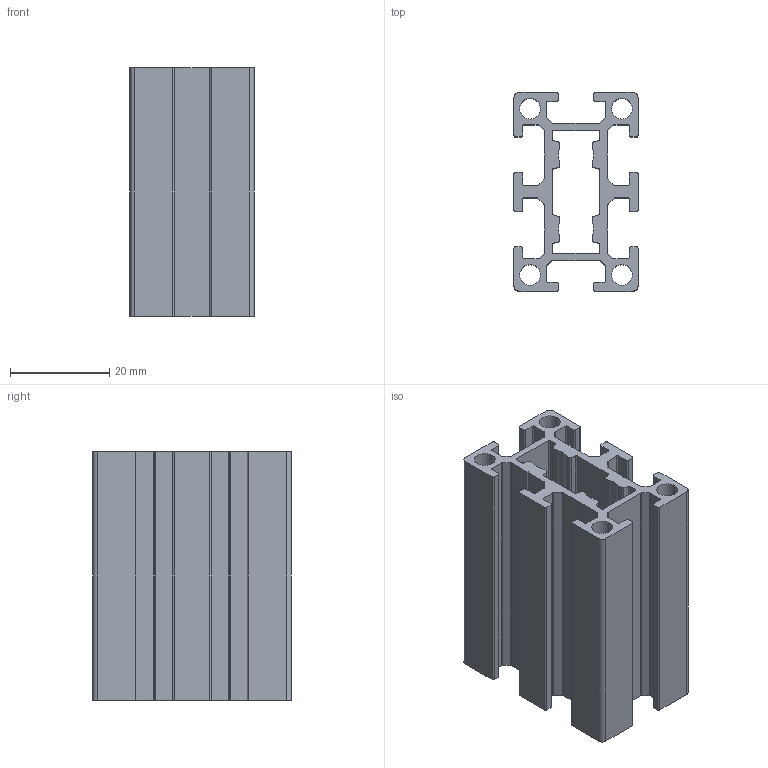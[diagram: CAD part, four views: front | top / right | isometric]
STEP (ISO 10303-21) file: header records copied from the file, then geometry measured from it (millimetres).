
FILE_DESCRIPTION(('STEP AP214'),'1');
FILE_NAME('F240-.stp','2017-07-14T08:14:21',(' '),(' '),'Spatial InterOp 3D',' ',' ');
FILE_SCHEMA(('automotive_design'));
Length unit declared in the file: millimetre
Products named in the file (1): F240-
Bounding box: 25 x 40 x 50 mm (x, y, z)
Volume: 17294.3 mm3; surface area: 19630.9 mm2
Topology: 1 solids, 1 shells, 194 faces, 576 edges, 384 vertices
Faces by surface type: plane 102, cylinder 92
Full cylindrical faces by diameter (mm): 4.2 x4
Entity records: 8112 total; most frequent: CARTESIAN_POINT 1151, DIRECTION 1146, ORIENTED_EDGE 1144, EDGE_CURVE 572, LINE 388, VECTOR 388, VERTEX_POINT 384, AXIS2_PLACEMENT_3D 379
